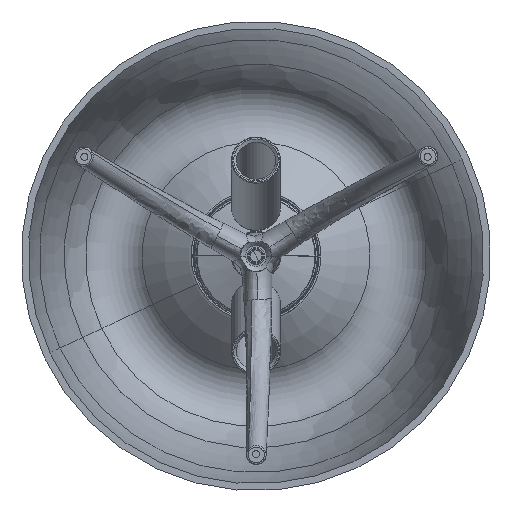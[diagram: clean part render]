
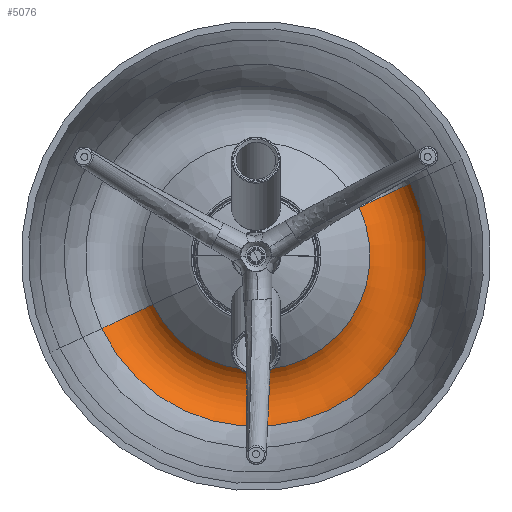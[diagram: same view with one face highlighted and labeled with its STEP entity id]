
A CAD part, front view. The second image highlights one B-rep face of the part: STEP entity #5076.
In plain terms, the highlighted toroidal (fillet/blend) face has major radius 80 mm and minor radius 21 mm.
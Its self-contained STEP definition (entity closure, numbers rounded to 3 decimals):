
#270 = AXIS2_PLACEMENT_3D ( 'NONE', #3151, #749, #2180 ) ;
#353 = DIRECTION ( 'NONE',  ( 0.426, 0., -0.905 ) ) ;
#749 = DIRECTION ( 'NONE',  ( 0., -1., 0. ) ) ;
#834 = CIRCLE ( 'NONE', #6224, 21. ) ;
#854 = EDGE_CURVE ( 'NONE', #12909, #11987, #6422, .T. ) ;
#1234 = FACE_OUTER_BOUND ( 'NONE', #8545, .T. ) ;
#1444 = AXIS2_PLACEMENT_3D ( 'NONE', #2440, #11070, #13520 ) ;
#1694 = TOROIDAL_SURFACE ( 'NONE', #1444, 80., 21. ) ;
#1979 = ORIENTED_EDGE ( 'NONE', *, *, #854, .F. ) ;
#2180 = DIRECTION ( 'NONE',  ( 0.905, 0., 0.426 ) ) ;
#2322 = CARTESIAN_POINT ( 'NONE',  ( 4.301, 444.437, 79.903 ) ) ;
#2440 = CARTESIAN_POINT ( 'NONE',  ( -83.659, 432.403, 38.516 ) ) ;
#2516 = ORIENTED_EDGE ( 'NONE', *, *, #13292, .F. ) ;
#2925 = CARTESIAN_POINT ( 'NONE',  ( -11.271, 432.403, 72.576 ) ) ;
#3151 = CARTESIAN_POINT ( 'NONE',  ( -83.659, 447.136, 38.516 ) ) ;
#4634 = CARTESIAN_POINT ( 'NONE',  ( -142.505, 447.136, 10.828 ) ) ;
#4685 = CARTESIAN_POINT ( 'NONE',  ( -24.812, 447.136, 66.204 ) ) ;
#4913 = ORIENTED_EDGE ( 'NONE', *, *, #10092, .T. ) ;
#5076 = ADVANCED_FACE ( 'NONE', ( #1234 ), #1694, .F. ) ;
#5159 = AXIS2_PLACEMENT_3D ( 'NONE', #13603, #6301, #14898 ) ;
#6224 = AXIS2_PLACEMENT_3D ( 'NONE', #2925, #353, #13850 ) ;
#6234 = DIRECTION ( 'NONE',  ( 0., -1., 0. ) ) ;
#6301 = DIRECTION ( 'NONE',  ( -0.426, 0., 0.905 ) ) ;
#6422 = CIRCLE ( 'NONE', #270, 65.035 ) ;
#8545 = EDGE_LOOP ( 'NONE', ( #1979, #4913, #10002, #2516 ) ) ;
#8580 = DIRECTION ( 'NONE',  ( 0.905, 0., 0.426 ) ) ;
#8643 = CARTESIAN_POINT ( 'NONE',  ( -171.618, 444.437, -2.871 ) ) ;
#8657 = CARTESIAN_POINT ( 'NONE',  ( -83.659, 444.437, 38.516 ) ) ;
#10002 = ORIENTED_EDGE ( 'NONE', *, *, #10405, .T. ) ;
#10066 = CIRCLE ( 'NONE', #13173, 97.21 ) ;
#10092 = EDGE_CURVE ( 'NONE', #12909, #11187, #14993, .T. ) ;
#10405 = EDGE_CURVE ( 'NONE', #11187, #11583, #10066, .T. ) ;
#11070 = DIRECTION ( 'NONE',  ( 0., -1., 0. ) ) ;
#11187 = VERTEX_POINT ( 'NONE', #8643 ) ;
#11583 = VERTEX_POINT ( 'NONE', #2322 ) ;
#11987 = VERTEX_POINT ( 'NONE', #4685 ) ;
#12909 = VERTEX_POINT ( 'NONE', #4634 ) ;
#13173 = AXIS2_PLACEMENT_3D ( 'NONE', #8657, #6234, #8580 ) ;
#13292 = EDGE_CURVE ( 'NONE', #11987, #11583, #834, .T. ) ;
#13520 = DIRECTION ( 'NONE',  ( 0.905, 0., 0.426 ) ) ;
#13603 = CARTESIAN_POINT ( 'NONE',  ( -156.046, 432.403, 4.456 ) ) ;
#13850 = DIRECTION ( 'NONE',  ( -0.905, 0., -0.426 ) ) ;
#14898 = DIRECTION ( 'NONE',  ( 0.905, 0., 0.426 ) ) ;
#14993 = CIRCLE ( 'NONE', #5159, 21. ) ;
